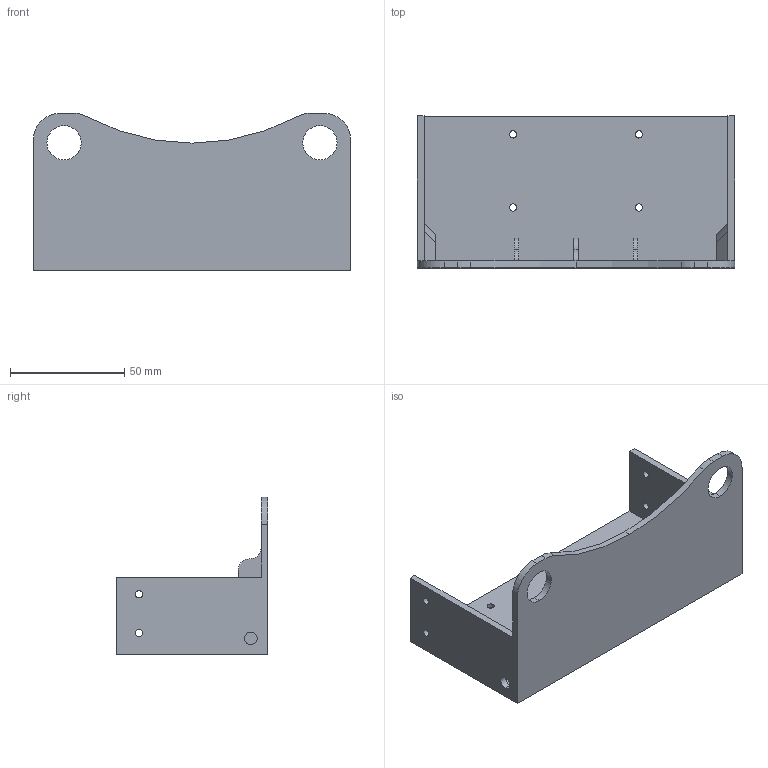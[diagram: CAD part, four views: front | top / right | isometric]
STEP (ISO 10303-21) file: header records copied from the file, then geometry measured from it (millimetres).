
FILE_DESCRIPTION (( 'STEP AP203' ), '1' );
FILE_NAME ('casing_b.STEP', '2019-07-18T16:15:07', ( '' ), ( '' ), 'SwSTEP 2.0', 'SolidWorks 2017', '' );
FILE_SCHEMA (( 'CONFIG_CONTROL_DESIGN' ));
Length unit declared in the file: millimetre
Products named in the file (1): casing_b
Bounding box: 139 x 66.5 x 69 mm (x, y, z)
Volume: 58230.2 mm3; surface area: 46761 mm2
Topology: 1 solids, 1 shells, 80 faces, 230 edges, 152 vertices
Faces by surface type: plane 42, cylinder 38
Entity records: 2759 total; most frequent: CARTESIAN_POINT 475, DIRECTION 460, ORIENTED_EDGE 460, EDGE_CURVE 230, LINE 154, VECTOR 154, AXIS2_PLACEMENT_3D 153, VERTEX_POINT 152
